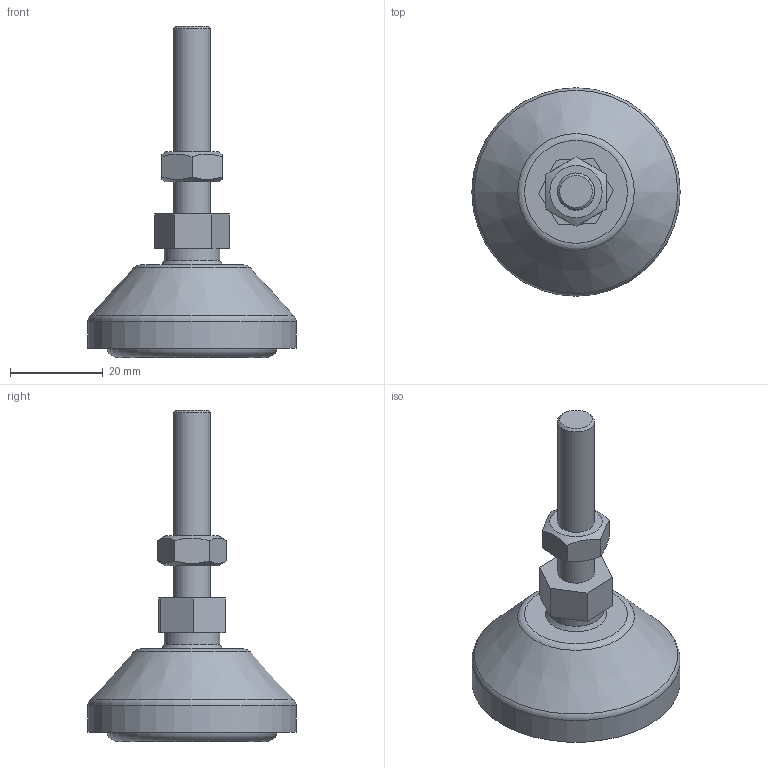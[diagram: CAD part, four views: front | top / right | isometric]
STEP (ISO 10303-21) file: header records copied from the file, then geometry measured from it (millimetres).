
FILE_DESCRIPTION((''),'2;1');
FILE_NAME('C:\Documents and Settings\Administrator\My Documents\Andys Backup Data\ANDY''S INVENTOR\INVENTOR LIBRARIES\MINITEC INVENTOR LIBRARIES\FEET WHEELS FLOOR FASTENING SUPPORTS\A PACKED FILES\STEP FILES\21.1871 LEVELING FOOT M8 45mm BASE.stp','2010-06-28T09:24:56',('Administrator'),(''),'Autodesk Inventor 2009','Autodesk Inventor 2009','');
FILE_SCHEMA(('CONFIG_CONTROL_DESIGN'));
Length unit declared in the file: millimetre
Products named in the file (5): 21.1871 LEVELING FOOT M8 45mm BASE; ANTI-SKID PAD 45mm; PAD 45mm PLASTIC; THREADED STUD 8mm; HEX NUT M8 DIN 934
Assembly tree (4 placements, depth 2):
  21.1871 LEVELING FOOT M8 45mm BASE
    ANTI-SKID PAD 45mm
    PAD 45mm PLASTIC
    THREADED STUD 8mm
    HEX NUT M8 DIN 934
Bounding box: 45 x 45 x 71.5 mm (x, y, z)
Volume: 29568.9 mm3; surface area: 11328.6 mm2
Topology: 4 solids, 4 shells, 43 faces, 82 edges, 52 vertices
Faces by surface type: plane 24, cylinder 7, cone 6, torus 3, bspline 2, sphere 1
Full cylindrical faces by diameter (mm): 8 x1, 12 x1, 15 x2, 37 x2, 45 x1
Entity records: 1145 total; most frequent: CARTESIAN_POINT 249, DIRECTION 176, ORIENTED_EDGE 124, AXIS2_PLACEMENT_3D 76, EDGE_LOOP 68, EDGE_CURVE 62, VERTEX_POINT 50, FACE_OUTER_BOUND 43
